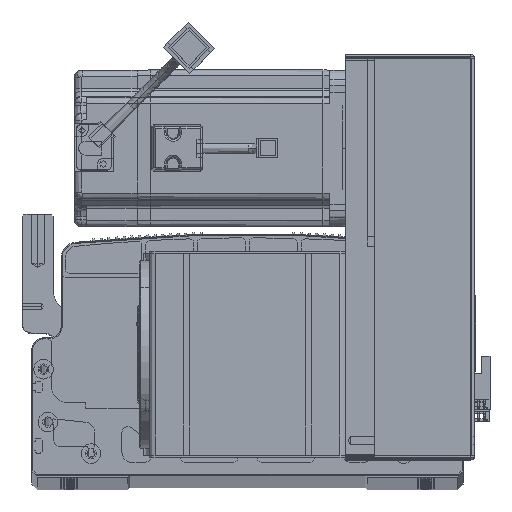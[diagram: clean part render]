
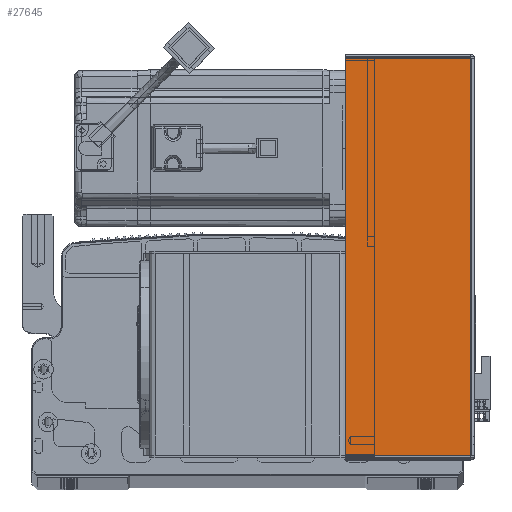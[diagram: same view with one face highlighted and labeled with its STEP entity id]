
A CAD part, top view. The second image highlights one B-rep face of the part: STEP entity #27645.
In plain terms, the highlighted planar face has unit normal (0, 0, 1) as drawn and (0, -1, 0) by its records, which use the part's own axes.
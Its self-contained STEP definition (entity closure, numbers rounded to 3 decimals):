
#1152 = VERTEX_POINT ( 'NONE', #86581 ) ;
#1545 = DIRECTION ( 'NONE',  ( 1., 0., 0. ) ) ;
#4671 = LINE ( 'NONE', #58403, #10861 ) ;
#9699 = DIRECTION ( 'NONE',  ( 0., 0., 1. ) ) ;
#10861 = VECTOR ( 'NONE', #9699, 1000. ) ;
#17118 = LINE ( 'NONE', #65072, #87355 ) ;
#20327 = LINE ( 'NONE', #74988, #100618 ) ;
#26593 = ORIENTED_EDGE ( 'NONE', *, *, #89080, .T. ) ;
#27645 = ADVANCED_FACE ( 'NONE', ( #53715 ), #46866, .F. ) ;
#36470 = VERTEX_POINT ( 'NONE', #49874 ) ;
#38287 = ORIENTED_EDGE ( 'NONE', *, *, #61315, .T. ) ;
#39069 = CARTESIAN_POINT ( 'NONE',  ( 0., -1.5, 0. ) ) ;
#45869 = ORIENTED_EDGE ( 'NONE', *, *, #93294, .F. ) ;
#46866 = PLANE ( 'NONE',  #73099 ) ;
#49662 = DIRECTION ( 'NONE',  ( 0., 0., 1. ) ) ;
#49874 = CARTESIAN_POINT ( 'NONE',  ( 64.5, -1.5, -203.293 ) ) ;
#50340 = EDGE_LOOP ( 'NONE', ( #101480, #26593, #38287, #45869 ) ) ;
#53715 = FACE_OUTER_BOUND ( 'NONE', #50340, .T. ) ;
#57573 = CARTESIAN_POINT ( 'NONE',  ( 0., -1.5, -0.707 ) ) ;
#58403 = CARTESIAN_POINT ( 'NONE',  ( 64.5, -1.5, 0. ) ) ;
#59715 = LINE ( 'NONE', #57573, #87256 ) ;
#60970 = CARTESIAN_POINT ( 'NONE',  ( 0.737, -1.5, -0.707 ) ) ;
#61315 = EDGE_CURVE ( 'NONE', #36470, #78015, #4671, .T. ) ;
#65072 = CARTESIAN_POINT ( 'NONE',  ( 0.737, -1.5, 0. ) ) ;
#73099 = AXIS2_PLACEMENT_3D ( 'NONE', #39069, #102196, #95214 ) ;
#74727 = CARTESIAN_POINT ( 'NONE',  ( 64.5, -1.5, -0.707 ) ) ;
#74988 = CARTESIAN_POINT ( 'NONE',  ( 0., -1.5, -203.293 ) ) ;
#78015 = VERTEX_POINT ( 'NONE', #74727 ) ;
#79663 = VERTEX_POINT ( 'NONE', #60970 ) ;
#86581 = CARTESIAN_POINT ( 'NONE',  ( 0.737, -1.5, -203.293 ) ) ;
#87256 = VECTOR ( 'NONE', #1545, 1000. ) ;
#87355 = VECTOR ( 'NONE', #49662, 1000. ) ;
#89080 = EDGE_CURVE ( 'NONE', #1152, #36470, #20327, .T. ) ;
#92777 = EDGE_CURVE ( 'NONE', #1152, #79663, #17118, .T. ) ;
#93294 = EDGE_CURVE ( 'NONE', #79663, #78015, #59715, .T. ) ;
#95214 = DIRECTION ( 'NONE',  ( -1., 0., 0. ) ) ;
#98407 = DIRECTION ( 'NONE',  ( 1., 0., 0. ) ) ;
#100618 = VECTOR ( 'NONE', #98407, 1000. ) ;
#101480 = ORIENTED_EDGE ( 'NONE', *, *, #92777, .F. ) ;
#102196 = DIRECTION ( 'NONE',  ( 0., 1., 0. ) ) ;
